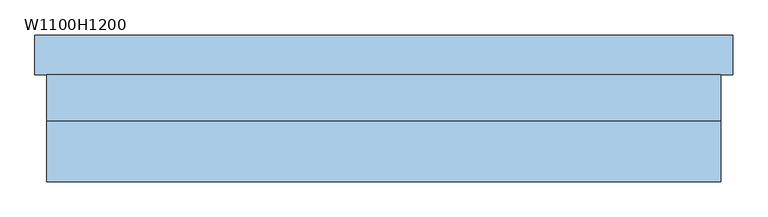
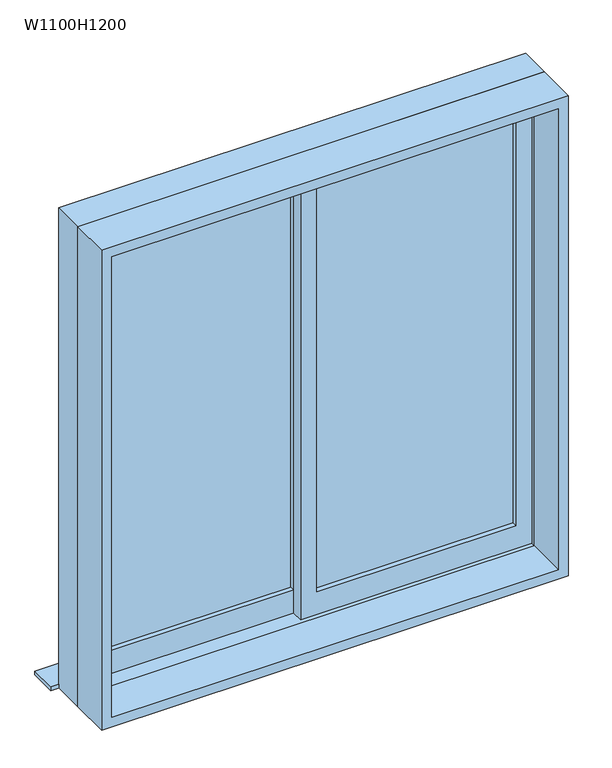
"""IFC4 building model written with IfcOpenShell, lengths in millimetres: window geometry, 引違い腰窓_2枚 : W1100H1200."""

from ifc_helpers import new_model, si_unit, frame, origin, place, context, project, spatial, polyline, outline, extrude, source, transform, mapped, element, save


def w1100h1200_8d7c9efa(model_context):
    return source(origin(), model_context, "Body", "SweptSolid", [
        extrude(outline(polyline([(-20.0, 12.5), (-510.0, 12.5), (-510.0, 17.5), (-20.0, 17.5), (-20.0, 12.5)])), frame((0.0, 0.0, 1010.0), z_axis=(0.0, 0.0, 1.0), x_axis=(1.0, 0.0, 0.0)), (0.0, 0.0, 1.0), 1100.0),
        extrude(outline(polyline([(510.0, -17.5), (20.0, -17.5), (20.0, -12.5), (510.0, -12.5), (510.0, -17.5)])), frame((0.0, 0.0, 1010.0), z_axis=(0.0, 0.0, 1.0), x_axis=(1.0, 0.0, 0.0)), (0.0, 0.0, 1.0), 1100.0),
        extrude(outline(polyline([(2150.0, -20.0), (950.0, -20.0), (950.0, 550.0), (2150.0, 550.0), (2150.0, -20.0)]), holes=[polyline([(1010.0, 510.0), (1010.0, 20.0), (2110.0, 20.0), (2110.0, 510.0), (1010.0, 510.0)])]), frame((0.0, -30.0, 0.0), z_axis=(0.0, 1.0, 0.0), x_axis=(0.0, 0.0, 1.0)), (0.0, 0.0, 1.0), 30.0),
        extrude(outline(polyline([(2150.0, -550.0), (950.0, -550.0), (950.0, 20.0), (2150.0, 20.0), (2150.0, -550.0)]), holes=[polyline([(1010.0, -20.0), (1010.0, -510.0), (2110.0, -510.0), (2110.0, -20.0), (1010.0, -20.0)])]), frame((0.0, 0.0, 0.0), z_axis=(0.0, 1.0, 0.0), x_axis=(0.0, 0.0, 1.0)), (0.0, 0.0, 1.0), 30.0),
        extrude(outline(polyline([(595.0, 107.5), (595.0, 40.0), (-595.0, 40.0), (-595.0, 107.5), (595.0, 107.5)])), frame((0.0, 0.0, 925.0), z_axis=(0.0, 0.0, 1.0), x_axis=(1.0, 0.0, 0.0)), (0.0, 0.0, 1.0), 10.0),
        extrude(outline(polyline([(2175.0, 575.0), (2175.0, -575.0), (925.0, -575.0), (925.0, 575.0), (2175.0, 575.0)]), holes=[polyline([(950.0, -550.0), (2150.0, -550.0), (2150.0, 550.0), (950.0, 550.0), (950.0, -550.0)])]), frame((0.0, -142.5, 0.0), z_axis=(0.0, 1.0, 0.0), x_axis=(0.0, 0.0, 1.0)), (0.0, 0.0, 1.0), 102.5),
        extrude(outline(polyline([(2175.0, -575.0), (925.0, -575.0), (925.0, 575.0), (2175.0, 575.0), (2175.0, -575.0)]), holes=[polyline([(2150.0, 550.0), (950.0, 550.0), (950.0, -550.0), (2150.0, -550.0), (2150.0, 550.0)])]), frame((0.0, -40.0, 0.0), z_axis=(0.0, 1.0, 0.0), x_axis=(0.0, 0.0, 1.0)), (0.0, 0.0, 1.0), 80.0),
    ])


if __name__ == "__main__":
    model = new_model("IFC4")
    model_context = context("Model", 3, world=origin())
    ifc_project = project(units=[si_unit("LENGTHUNIT", "METRE", prefix="MILLI")], contexts=[model_context])
    site = spatial("IfcSite", under=ifc_project)
    building = spatial("IfcBuilding", under=site)
    placement = place(None, origin())
    w1100h1200_shape = w1100h1200_8d7c9efa(model_context)
    element("IfcWindow", 1, ObjectType="引違い腰窓_2枚 : W1100H1200", at=placement, inside=building, context=model_context, shape_type="MappedRepresentation", body=[
        mapped(w1100h1200_shape, transform((0.0, 0.0, 0.0), x_axis=(1.0, 0.0, 0.0), y_axis=(0.0, 1.0, 0.0), z_axis=(0.0, 0.0, 1.0))),
    ])
    save(model, "model.ifc")
